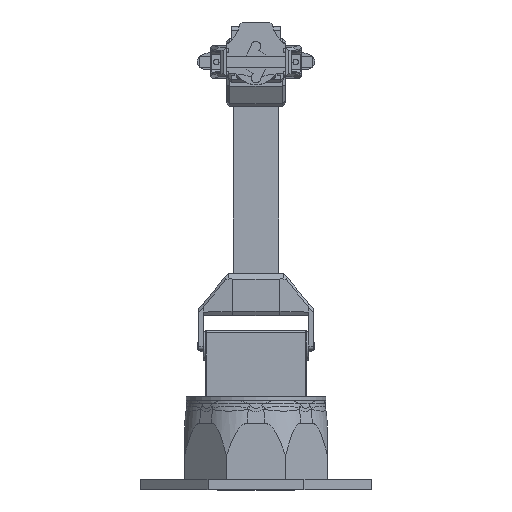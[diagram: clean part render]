
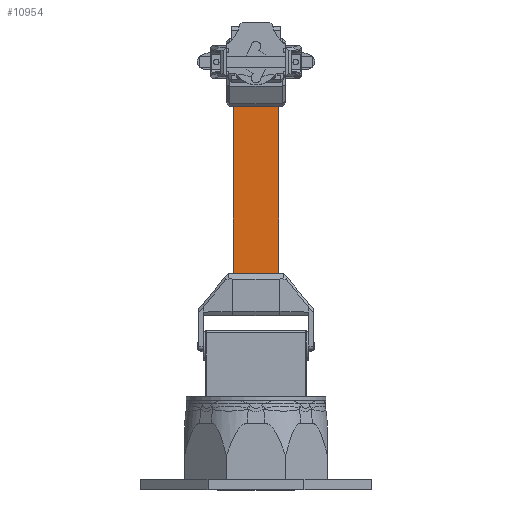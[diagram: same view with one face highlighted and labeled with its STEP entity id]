
A CAD part, front view. The second image highlights one B-rep face of the part: STEP entity #10954.
In plain terms, the highlighted planar face has unit normal (0, -1, 0).
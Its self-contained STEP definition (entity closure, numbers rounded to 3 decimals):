
#1061=FACE_OUTER_BOUND('',#1704,.T.);
#1704=EDGE_LOOP('',(#8352,#8353,#8354,#8355));
#2320=LINE('',#18244,#3455);
#2327=LINE('',#18257,#3462);
#2453=LINE('',#18904,#3588);
#2454=LINE('',#18906,#3589);
#3455=VECTOR('',#13122,10.);
#3462=VECTOR('',#13131,10.);
#3588=VECTOR('',#13405,10.);
#3589=VECTOR('',#13408,10.);
#4666=VERTEX_POINT('',#18241);
#4667=VERTEX_POINT('',#18243);
#4672=VERTEX_POINT('',#18255);
#4795=VERTEX_POINT('',#18902);
#5880=EDGE_CURVE('',#4666,#4667,#2320,.T.);
#5887=EDGE_CURVE('',#4667,#4672,#2327,.T.);
#6073=EDGE_CURVE('',#4795,#4672,#2453,.T.);
#6074=EDGE_CURVE('',#4795,#4666,#2454,.T.);
#8352=ORIENTED_EDGE('',*,*,#6074,.F.);
#8353=ORIENTED_EDGE('',*,*,#6073,.T.);
#8354=ORIENTED_EDGE('',*,*,#5887,.F.);
#8355=ORIENTED_EDGE('',*,*,#5880,.F.);
#10409=PLANE('',#11768);
#10954=ADVANCED_FACE('',(#1061),#10409,.T.);
#11768=AXIS2_PLACEMENT_3D('',#18905,#13406,#13407);
#13122=DIRECTION('',(0.,0.,-1.));
#13131=DIRECTION('',(-1.,0.,0.));
#13405=DIRECTION('',(0.,0.,-1.));
#13406=DIRECTION('center_axis',(0.,-1.,0.));
#13407=DIRECTION('ref_axis',(0.,0.,1.));
#13408=DIRECTION('',(1.,0.,0.));
#18241=CARTESIAN_POINT('',(20.,-10.,211.));
#18243=CARTESIAN_POINT('',(20.,-10.,64.));
#18244=CARTESIAN_POINT('',(20.,-10.,250.));
#18255=CARTESIAN_POINT('',(-20.,-10.,64.));
#18257=CARTESIAN_POINT('',(-20.,-10.,64.));
#18902=CARTESIAN_POINT('',(-20.,-10.,211.));
#18904=CARTESIAN_POINT('',(-20.,-10.,250.));
#18905=CARTESIAN_POINT('Origin',(-19.,-10.,30.));
#18906=CARTESIAN_POINT('',(1.55,-10.,211.));
